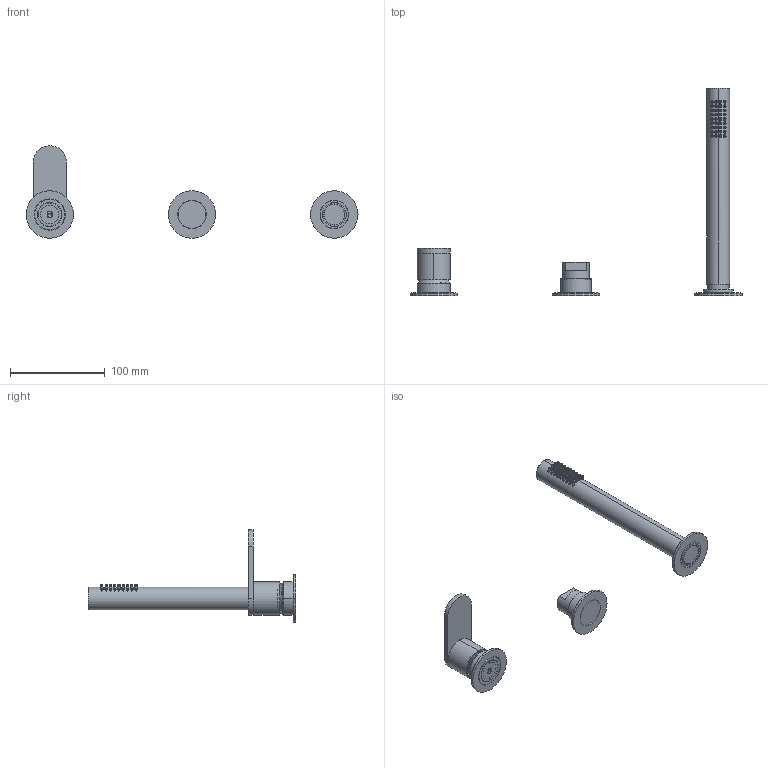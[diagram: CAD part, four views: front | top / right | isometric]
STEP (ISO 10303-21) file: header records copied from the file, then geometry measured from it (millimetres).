
FILE_DESCRIPTION((''),'2;1');
FILE_NAME('7902821_SW0001','2026-10-05T11:48:46',('carloff'),(''),'CREO PARAMETRIC BY PTC INC, 2025443','CREO PARAMETRIC BY PTC INC, 2025443','');
FILE_SCHEMA(('CONFIG_CONTROL_DESIGN'));
Length unit declared in the file: millimetre
Products named in the file (1): 7902821_SW0001
Bounding box: 350 x 219 x 97.51 mm (x, y, z)
Volume: 161228.5 mm3; surface area: 67134.9 mm2
Topology: 6 solids, 6 shells, 1081 faces, 2375 edges, 1400 vertices
Faces by surface type: cylinder 459, plane 266, torus 216, sphere 68, cone 52, bspline 20
Entity records: 36200 total; most frequent: CARTESIAN_POINT 12148, DIRECTION 5555, ORIENTED_EDGE 4630, AXIS2_PLACEMENT_3D 2422, EDGE_CURVE 2315, VERTEX_POINT 1400, CIRCLE 1361, EDGE_LOOP 1253
